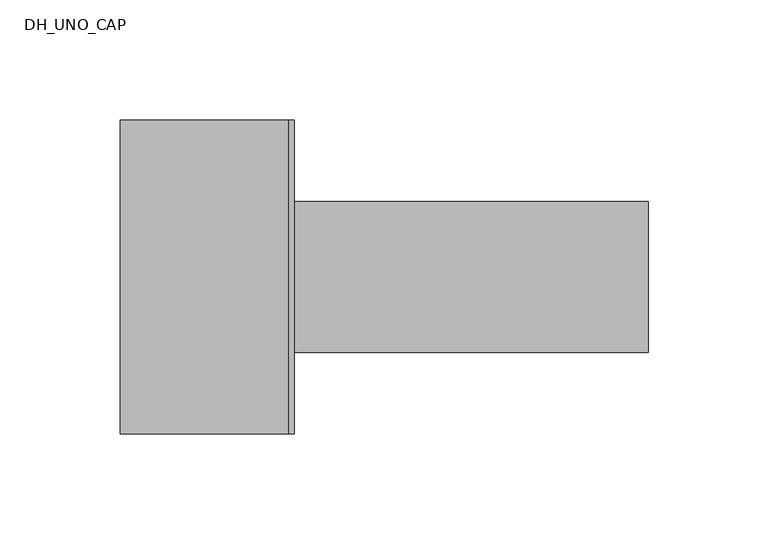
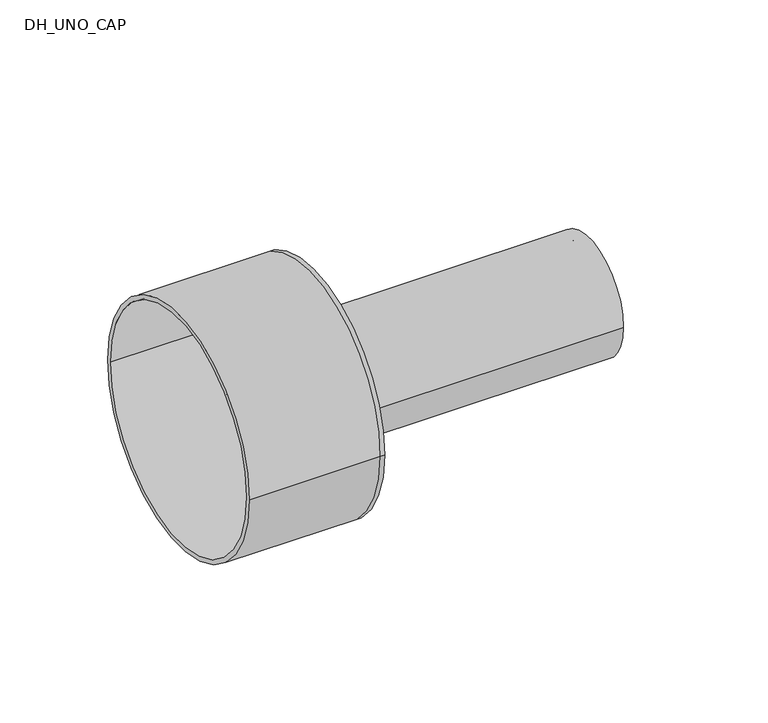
"""IFC4 building model written with IfcOpenShell, lengths in millimetres: pipe fitting geometry, DH_UNO_CAP : RAUTHERMEX UNO 11 COOL - Solid Cap."""

from ifc_helpers import new_model, si_unit, point, frame, origin, origin_2d, place, context, project, spatial, polyline, circle_curve, trimmed, segment, composite_curve, outline, extrude, source, transform, mapped, element, save
from ifc_brep_helpers import plane_surface, cylinder_surface, revolved_surface, advanced_brep


def dh_uno_cap_b77fc7ff(model_context):
    return source(origin(), model_context, "Body", "SolidModel", [
        extrude(outline(composite_curve([segment(trimmed(circle_curve(origin_2d(), 31.5), [point((-31.5, 0.0))], [point((31.5, 0.0))], False, "CARTESIAN"), True, "CONTINUOUS"), segment(trimmed(circle_curve(origin_2d(), 31.5), [point((31.5, 0.0))], [point((-31.5, 0.0))], False, "CARTESIAN"), True, "CONTINUOUS")], self_intersect=False), holes=[composite_curve([segment(trimmed(circle_curve(origin_2d(), 25.7), [point((-25.7, 0.0))], [point((25.7, 0.0))], True, "CARTESIAN"), True, "CONTINUOUS"), segment(trimmed(circle_curve(origin_2d(), 25.7), [point((25.7, 0.0))], [point((-25.7, 0.0))], True, "CARTESIAN"), True, "CONTINUOUS")], self_intersect=False)]), frame((0.0, 0.0, 0.0), z_axis=(1.0, 0.0, 0.0), x_axis=(0.0, 1.0, 0.0)), (0.0, 0.0, 1.0), 150.0),
        advanced_brep(
        [(-70.0, -65.5, 0.0), (-70.0, 65.5, 0.0), (-70.0, -63.0, 0.0), (-70.0, 63.0, 0.0), (0.0, -63.0, 0.0), (0.0, 63.0, 0.0), (0.0, -65.5, 0.0), (0.0, 65.5, 0.0), (0.0, 31.5, 0.0), (0.0, -31.5, 0.0), (2.5, -65.5, 0.0), (2.5, 65.5, 0.0), (2.5, -31.5, 0.0), (2.5, 31.5, 0.0)],
        [
            (0, 1, circle_curve(frame((-70.0, 0.0, 0.0), z_axis=(-1.0, 0.0, 0.0), x_axis=(0.0, 1.0, 0.0)), 65.5)),
            (1, 0, circle_curve(frame((-70.0, 0.0, 0.0), z_axis=(-1.0, 0.0, 0.0), x_axis=(0.0, 1.0, 0.0)), 65.5)),
            (2, 3, circle_curve(frame((-70.0, 0.0, 0.0), z_axis=(1.0, 0.0, 0.0), x_axis=(0.0, 1.0, 0.0)), 63.0)),
            (3, 2, circle_curve(frame((-70.0, 0.0, 0.0), z_axis=(1.0, 0.0, 0.0), x_axis=(0.0, 1.0, 0.0)), 63.0)),
            (2, 4),
            (4, 5, circle_curve(frame((0.0, 0.0, 0.0), z_axis=(1.0, 0.0, 0.0), x_axis=(0.0, 1.0, 0.0)), 63.0)),
            (5, 3),
            (5, 4, circle_curve(frame((0.0, 0.0, 0.0), z_axis=(1.0, 0.0, 0.0), x_axis=(0.0, 1.0, 0.0)), 63.0)),
            (0, 6),
            (6, 7, circle_curve(frame((0.0, 0.0, 0.0), z_axis=(-1.0, 0.0, 0.0), x_axis=(0.0, 1.0, 0.0)), 65.5)),
            (7, 1),
            (7, 6, circle_curve(frame((0.0, 0.0, 0.0), z_axis=(-1.0, 0.0, 0.0), x_axis=(0.0, 1.0, 0.0)), 65.5)),
            (8, 9, circle_curve(frame((0.0, 0.0, 0.0), z_axis=(1.0, 0.0, 0.0), x_axis=(0.0, 1.0, 0.0)), 31.5)),
            (9, 8, circle_curve(frame((0.0, 0.0, 0.0), z_axis=(1.0, 0.0, 0.0), x_axis=(0.0, 1.0, 0.0)), 31.5)),
            (10, 11, circle_curve(frame((2.5, 0.0, 0.0), z_axis=(1.0, 0.0, 0.0), x_axis=(0.0, 1.0, 0.0)), 65.5)),
            (11, 10, circle_curve(frame((2.5, 0.0, 0.0), z_axis=(1.0, 0.0, 0.0), x_axis=(0.0, 1.0, 0.0)), 65.5)),
            (12, 13, circle_curve(frame((2.5, 0.0, 0.0), z_axis=(-1.0, 0.0, 0.0), x_axis=(0.0, 1.0, 0.0)), 31.5)),
            (13, 12, circle_curve(frame((2.5, 0.0, 0.0), z_axis=(-1.0, 0.0, 0.0), x_axis=(0.0, 1.0, 0.0)), 31.5)),
            (11, 7),
            (6, 10),
            (8, 13),
            (12, 9),
        ],
        [
            plane_surface(frame((-70.0, 0.0, 0.0), z_axis=(-1.0, 0.0, 0.0), x_axis=(0.0, 0.0, 1.0))),
            revolved_surface(polyline([(0.0, 63.0, 0.0), (-70.0, 63.0, 0.0)]), (-70.0, 0.0, 0.0), (1.0, 0.0, 0.0)),
            cylinder_surface(frame((-70.0, 0.0, 0.0), z_axis=(-1.0, 0.0, 0.0), x_axis=(0.0, 1.0, 0.0)), 65.5),
            plane_surface(frame((0.0, 0.0, 0.0), z_axis=(-1.0, 0.0, 0.0), x_axis=(0.0, 0.0, 1.0))),
            plane_surface(frame((2.5, 0.0, 0.0), z_axis=(1.0, 0.0, 0.0), x_axis=(0.0, 0.0, 1.0))),
            cylinder_surface(frame((0.0, 0.0, 0.0), z_axis=(-1.0, 0.0, 0.0), x_axis=(0.0, 1.0, 0.0)), 65.5),
            revolved_surface(polyline([(0.0, 31.5, 0.0), (2.5, 31.5, 0.0)]), (0.0, 0.0, 0.0), (-1.0, 0.0, 0.0)),
        ],
        [
            (0, [[1, 2], [3, 4]]),
            (1, [[-3, 5, 6, 7]]),
            (1, [[-4, -7, 8, -5]]),
            (2, [[-1, 9, 10, 11]]),
            (2, [[-2, -11, 12, -9]]),
            (3, [[-6, -8], [13, 14]]),
            (4, [[15, 16], [17, 18]]),
            (5, [[-16, 19, -10, 20]]),
            (5, [[-15, -20, -12, -19]]),
            (6, [[21, -17, 22, -13]]),
            (6, [[-21, -14, -22, -18]]),
        ],
    ),
    ])


if __name__ == "__main__":
    model = new_model("IFC4")
    model_context = context("Model", 3, world=origin())
    ifc_project = project(units=[si_unit("LENGTHUNIT", "METRE", prefix="MILLI")], contexts=[model_context])
    site = spatial("IfcSite", under=ifc_project)
    building = spatial("IfcBuilding", under=site)
    placement = place(None, origin())
    dh_uno_cap_shape = dh_uno_cap_b77fc7ff(model_context)
    element("IfcPipeFitting", 1, ObjectType="DH_UNO_CAP : RAUTHERMEX UNO 11 COOL - Solid Cap", at=placement, inside=building, context=model_context, shape_type="MappedRepresentation", body=[
        mapped(dh_uno_cap_shape, transform((0.0, 0.0, 0.0), x_axis=(1.0, 0.0, 0.0), y_axis=(0.0, 1.0, 0.0), z_axis=(0.0, 0.0, 1.0))),
    ])
    save(model, "model.ifc")
